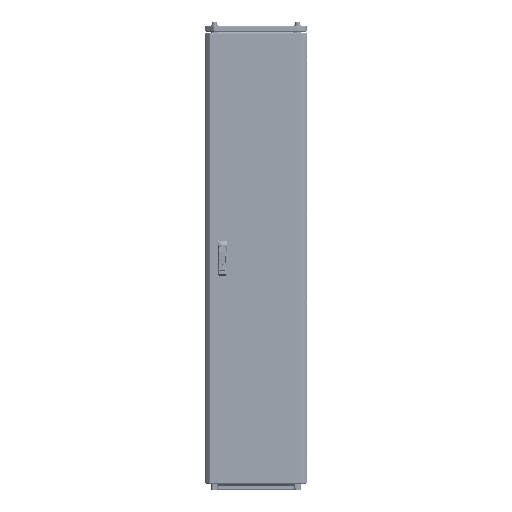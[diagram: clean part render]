
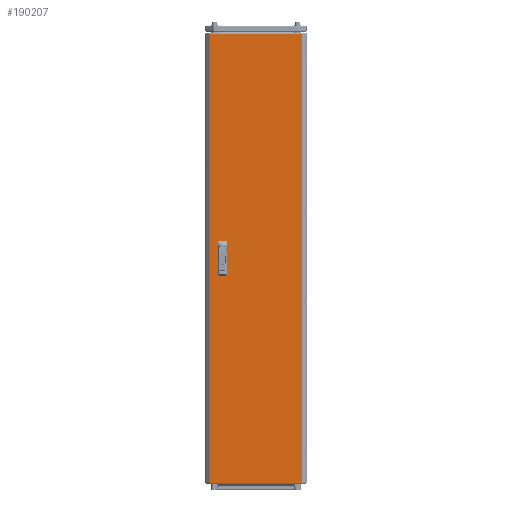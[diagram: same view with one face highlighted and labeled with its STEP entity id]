
A CAD part, top view. The second image highlights one B-rep face of the part: STEP entity #190207.
In plain terms, the highlighted planar face has unit normal (0, 0, 1).
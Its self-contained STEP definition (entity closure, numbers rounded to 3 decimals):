
#935 = DIRECTION ( 'NONE',  ( 0., 0., -1. ) ) ;
#3047 = CARTESIAN_POINT ( 'NONE',  ( -177.875, 869.5, 0. ) ) ;
#6485 = VECTOR ( 'NONE', #230799, 1000. ) ;
#7445 = DIRECTION ( 'NONE',  ( 0., -1., 0. ) ) ;
#8897 = EDGE_CURVE ( 'NONE', #25775, #159812, #48458, .T. ) ;
#10895 = CARTESIAN_POINT ( 'NONE',  ( -142.5, 12.5, 0. ) ) ;
#11011 = DIRECTION ( 'NONE',  ( 1., 0., 0. ) ) ;
#13372 = VERTEX_POINT ( 'NONE', #229194 ) ;
#15565 = VECTOR ( 'NONE', #88074, 1000. ) ;
#18511 = ORIENTED_EDGE ( 'NONE', *, *, #188968, .F. ) ;
#19738 = FACE_BOUND ( 'NONE', #227766, .T. ) ;
#19958 = CARTESIAN_POINT ( 'NONE',  ( -177.875, 869.5, 0. ) ) ;
#21120 = CARTESIAN_POINT ( 'NONE',  ( -117.5, 12.5, 0. ) ) ;
#24606 = VERTEX_POINT ( 'NONE', #3047 ) ;
#25681 = VERTEX_POINT ( 'NONE', #74688 ) ;
#25775 = VERTEX_POINT ( 'NONE', #126368 ) ;
#29320 = CARTESIAN_POINT ( 'NONE',  ( -142.5, 62.5, 0. ) ) ;
#29743 = CARTESIAN_POINT ( 'NONE',  ( 177.875, 869.5, 0. ) ) ;
#30001 = VECTOR ( 'NONE', #230789, 1000. ) ;
#31435 = ORIENTED_EDGE ( 'NONE', *, *, #187205, .F. ) ;
#33258 = EDGE_CURVE ( 'NONE', #121612, #93340, #216280, .T. ) ;
#34201 = CARTESIAN_POINT ( 'NONE',  ( -142.5, 12.5, 0. ) ) ;
#34644 = CARTESIAN_POINT ( 'NONE',  ( -142.5, -12.5, 0. ) ) ;
#35403 = CARTESIAN_POINT ( 'NONE',  ( 177.875, -869.5, 0. ) ) ;
#35828 = ORIENTED_EDGE ( 'NONE', *, *, #33258, .T. ) ;
#48458 = LINE ( 'NONE', #120073, #147136 ) ;
#48982 = CARTESIAN_POINT ( 'NONE',  ( -177.875, -869.5, 0. ) ) ;
#52502 = VECTOR ( 'NONE', #145728, 1000. ) ;
#52856 = VECTOR ( 'NONE', #11011, 1000. ) ;
#53773 = CARTESIAN_POINT ( 'NONE',  ( -177.875, -869.5, 0. ) ) ;
#54922 = PLANE ( 'NONE',  #127637 ) ;
#56955 = EDGE_LOOP ( 'NONE', ( #106421, #196232, #183476, #171462 ) ) ;
#57252 = CARTESIAN_POINT ( 'NONE',  ( 0., 0., 0. ) ) ;
#60532 = EDGE_LOOP ( 'NONE', ( #35828, #138094, #187524, #129384 ) ) ;
#74688 = CARTESIAN_POINT ( 'NONE',  ( -117.5, 62.5, 0. ) ) ;
#77891 = LINE ( 'NONE', #10895, #208388 ) ;
#80492 = VECTOR ( 'NONE', #179842, 1000. ) ;
#83816 = ORIENTED_EDGE ( 'NONE', *, *, #93084, .F. ) ;
#88074 = DIRECTION ( 'NONE',  ( -1., 0., 0. ) ) ;
#88639 = LINE ( 'NONE', #34644, #30001 ) ;
#93084 = EDGE_CURVE ( 'NONE', #217754, #93506, #176791, .T. ) ;
#93340 = VERTEX_POINT ( 'NONE', #29743 ) ;
#93506 = VERTEX_POINT ( 'NONE', #109482 ) ;
#100046 = VERTEX_POINT ( 'NONE', #21120 ) ;
#102962 = EDGE_CURVE ( 'NONE', #24606, #139078, #141662, .T. ) ;
#103191 = LINE ( 'NONE', #53773, #220285 ) ;
#106421 = ORIENTED_EDGE ( 'NONE', *, *, #143766, .F. ) ;
#109482 = CARTESIAN_POINT ( 'NONE',  ( -117.5, -12.5, 0. ) ) ;
#111276 = FACE_BOUND ( 'NONE', #56955, .T. ) ;
#116390 = CARTESIAN_POINT ( 'NONE',  ( 177.875, -869.5, 0. ) ) ;
#120073 = CARTESIAN_POINT ( 'NONE',  ( -142.5, -62.5, 0. ) ) ;
#121612 = VERTEX_POINT ( 'NONE', #116390 ) ;
#123429 = LINE ( 'NONE', #34201, #80492 ) ;
#125068 = CARTESIAN_POINT ( 'NONE',  ( -177.875, -869.5, 0. ) ) ;
#126368 = CARTESIAN_POINT ( 'NONE',  ( -142.5, -12.5, 0. ) ) ;
#127637 = AXIS2_PLACEMENT_3D ( 'NONE', #57252, #935, #187285 ) ;
#128965 = CARTESIAN_POINT ( 'NONE',  ( -117.5, 12.5, 0. ) ) ;
#129384 = ORIENTED_EDGE ( 'NONE', *, *, #140383, .T. ) ;
#132499 = VERTEX_POINT ( 'NONE', #231290 ) ;
#138094 = ORIENTED_EDGE ( 'NONE', *, *, #168549, .T. ) ;
#139078 = VERTEX_POINT ( 'NONE', #125068 ) ;
#140383 = EDGE_CURVE ( 'NONE', #139078, #121612, #103191, .T. ) ;
#141662 = LINE ( 'NONE', #48982, #166514 ) ;
#143766 = EDGE_CURVE ( 'NONE', #25681, #132499, #211338, .T. ) ;
#145728 = DIRECTION ( 'NONE',  ( 0., 1., 0. ) ) ;
#146578 = LINE ( 'NONE', #128965, #186289 ) ;
#147136 = VECTOR ( 'NONE', #7445, 1000. ) ;
#148669 = EDGE_CURVE ( 'NONE', #132499, #13372, #77891, .T. ) ;
#157029 = DIRECTION ( 'NONE',  ( 0., -1., 0. ) ) ;
#157935 = CARTESIAN_POINT ( 'NONE',  ( -117.5, -62.5, 0. ) ) ;
#159112 = CARTESIAN_POINT ( 'NONE',  ( -117.5, -62.5, 0. ) ) ;
#159812 = VERTEX_POINT ( 'NONE', #169472 ) ;
#166514 = VECTOR ( 'NONE', #157029, 1000. ) ;
#168549 = EDGE_CURVE ( 'NONE', #93340, #24606, #197321, .T. ) ;
#169472 = CARTESIAN_POINT ( 'NONE',  ( -142.5, -62.5, 0. ) ) ;
#171462 = ORIENTED_EDGE ( 'NONE', *, *, #148669, .F. ) ;
#174836 = DIRECTION ( 'NONE',  ( 1., 0., 0. ) ) ;
#176791 = LINE ( 'NONE', #159112, #6485 ) ;
#179842 = DIRECTION ( 'NONE',  ( 1., 0., 0. ) ) ;
#182000 = EDGE_CURVE ( 'NONE', #100046, #25681, #146578, .T. ) ;
#183476 = ORIENTED_EDGE ( 'NONE', *, *, #197434, .F. ) ;
#186289 = VECTOR ( 'NONE', #207301, 1000. ) ;
#187205 = EDGE_CURVE ( 'NONE', #93506, #25775, #88639, .T. ) ;
#187285 = DIRECTION ( 'NONE',  ( -1., 0., 0. ) ) ;
#187524 = ORIENTED_EDGE ( 'NONE', *, *, #102962, .T. ) ;
#188270 = DIRECTION ( 'NONE',  ( 0., -1., 0. ) ) ;
#188968 = EDGE_CURVE ( 'NONE', #159812, #217754, #225940, .T. ) ;
#190207 = ADVANCED_FACE ( 'NONE', ( #111276, #19738, #215881 ), #54922, .F. ) ;
#194622 = ORIENTED_EDGE ( 'NONE', *, *, #8897, .F. ) ;
#196232 = ORIENTED_EDGE ( 'NONE', *, *, #182000, .F. ) ;
#197321 = LINE ( 'NONE', #19958, #15565 ) ;
#197434 = EDGE_CURVE ( 'NONE', #13372, #100046, #123429, .T. ) ;
#206912 = VECTOR ( 'NONE', #209019, 1000. ) ;
#207301 = DIRECTION ( 'NONE',  ( 0., 1., 0. ) ) ;
#208388 = VECTOR ( 'NONE', #188270, 1000. ) ;
#209019 = DIRECTION ( 'NONE',  ( -1., 0., 0. ) ) ;
#210645 = CARTESIAN_POINT ( 'NONE',  ( -142.5, -62.5, 0. ) ) ;
#211338 = LINE ( 'NONE', #29320, #206912 ) ;
#215881 = FACE_OUTER_BOUND ( 'NONE', #60532, .T. ) ;
#216280 = LINE ( 'NONE', #35403, #52502 ) ;
#217754 = VERTEX_POINT ( 'NONE', #157935 ) ;
#220285 = VECTOR ( 'NONE', #174836, 1000. ) ;
#225940 = LINE ( 'NONE', #210645, #52856 ) ;
#227766 = EDGE_LOOP ( 'NONE', ( #31435, #83816, #18511, #194622 ) ) ;
#229194 = CARTESIAN_POINT ( 'NONE',  ( -142.5, 12.5, 0. ) ) ;
#230789 = DIRECTION ( 'NONE',  ( -1., 0., 0. ) ) ;
#230799 = DIRECTION ( 'NONE',  ( 0., 1., 0. ) ) ;
#231290 = CARTESIAN_POINT ( 'NONE',  ( -142.5, 62.5, 0. ) ) ;
